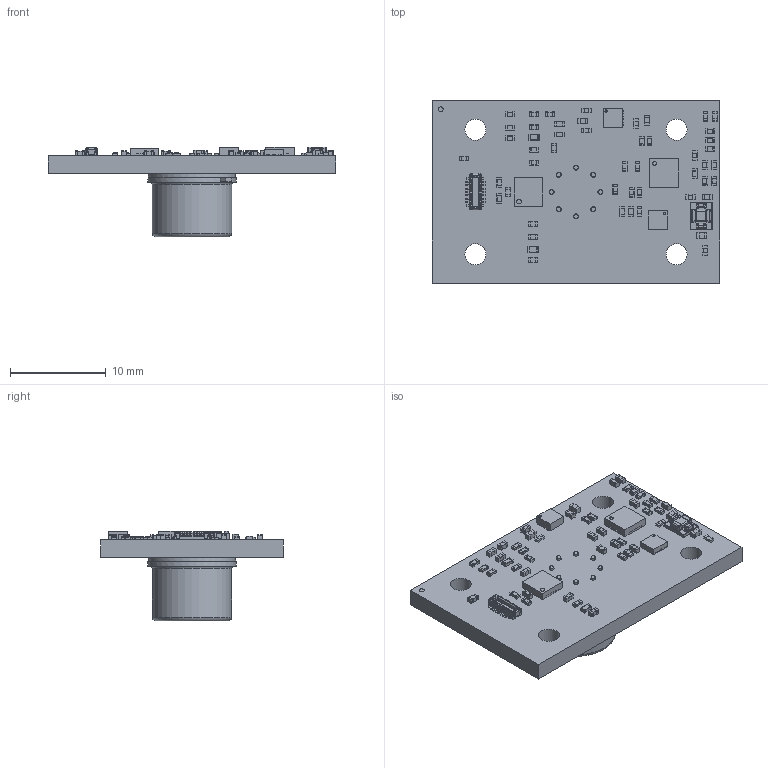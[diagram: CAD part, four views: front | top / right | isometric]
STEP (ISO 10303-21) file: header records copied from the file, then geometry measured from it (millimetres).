
FILE_DESCRIPTION(('Open CASCADE Model'),'2;1');
FILE_NAME('Open CASCADE Shape Model','2026-07-09T08:53:51',('Author'),( 'Open CASCADE'),'Open CASCADE STEP processor 6.8','Open CASCADE 6.8' ,'Unknown');
FILE_SCHEMA(('AUTOMOTIVE_DESIGN { 1 0 10303 214 1 1 1 1 }'));
Length unit declared in the file: millimetre
Products named in the file (134): PCB; Board; Open CASCADE STEP translator 6.8 13.1.1; M3; 7957240752; Cylinder; U2; SIP0009B; SOLDERMASK-BTM-SIP; SUBSTRATE-SIP; METAL-SIP0009B; BUM-PATTERN_ASM; BUMP-SIP; SOLDERMASK-TOP-SIP; INDTR-TOKO-MDT2012-CLR_ASM; INDTR-BODY-MDT; INDTR-TERMNL-MDT; CAP-GRM155R60J_ASM; CAP-BODY-GRM; CAP-TERMNL-GRM; SOLDER-CAP; SOLDER-IND; 8119275072; Extruded; C6; 7957251872; 7957251632; C21; User_Library-cap_0402; C16; C15; R25; User_Library-res0402-1; R24; R23; M2; 7957232752; C14; DET; 247-682_-_09.07.2026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
Assembly tree (200 placements, depth 5):
  PCB
    Board
      Open CASCADE STEP translator 6.8 13.1.1
    M3
      7957240752
        Cylinder
    U2
      SIP0009B
        SOLDERMASK-BTM-SIP
        SUBSTRATE-SIP
        METAL-SIP0009B
        BUM-PATTERN_ASM
          BUMP-SIP  x9
        SOLDERMASK-TOP-SIP
        INDTR-TOKO-MDT2012-CLR_ASM
          INDTR-BODY-MDT
          INDTR-TERMNL-MDT  x2
        CAP-GRM155R60J_ASM  x2
          CAP-BODY-GRM
          CAP-TERMNL-GRM
        SOLDER-CAP  x4
        SOLDER-IND  x2
      8119275072
        Extruded
    C6
      7957251872
        Extruded
      7957251632  x2
        Extruded
    C21
      User_Library-cap_0402
    C16
      User_Library-cap_0402
    C15
      User_Library-cap_0402
    R25
      User_Library-res0402-1
    R24
      User_Library-res0402-1
    R23
      User_Library-res0402-1
    M2
      7957232752
        Cylinder
    C14
      7957251632  x2
        Extruded
      7957251872
        Extruded
    DET
      247-682_-_09.07.2026
        DET
          1TE-TO39(8p)-pW,_PV_detector
    C13
      User_Library-cap_0402
    C12
      User_Library-cap_0402
    C7
      User_Library-cap_0402
    C20
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Bounding box: 30 x 19 x 9.36 mm (x, y, z)
Volume: 1424 mm3; surface area: 2033.5 mm2
Topology: 134 solids, 134 shells, 3438 faces, 8495 edges, 5190 vertices
Faces by surface type: plane 2433, cylinder 736, sphere 174, bspline 53, torus 26, cone 16
Full cylindrical faces by diameter (mm): 0.25 x1, 0.45 x8, 0.5 x10, 0.8 x8, 2.2 x4, 3.6 x1, 8.26 x1, 9.1 x1, 9.2 x1
Entity records: 60811 total; most frequent: CARTESIAN_POINT 9183, DIRECTION 8243, ORIENTED_EDGE 8186, EDGE_CURVE 4093, LINE 3387, VECTOR 3387, VERTEX_POINT 2622, AXIS2_PLACEMENT_3D 2428
